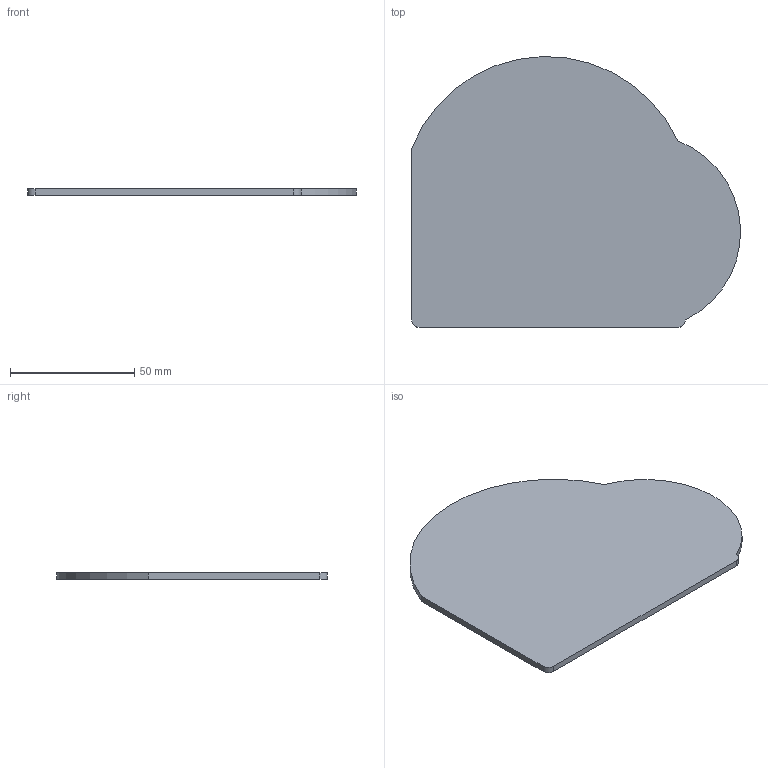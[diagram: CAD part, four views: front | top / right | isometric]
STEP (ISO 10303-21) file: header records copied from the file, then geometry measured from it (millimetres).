
FILE_DESCRIPTION(('Open CASCADE Model'),'2;1');
FILE_NAME('Open CASCADE Shape Model','2026-10-15T23:05:45',('Author'),( 'Open CASCADE'),'Open CASCADE STEP processor 7.5','Open CASCADE 7.5' ,'Unknown');
FILE_SCHEMA(('AUTOMOTIVE_DESIGN { 1 0 10303 214 1 1 1 1 }'));
Length unit declared in the file: millimetre
Products named in the file (3): PCB; Board; Open CASCADE STEP translator 7.5 1.1.1
Assembly tree (2 placements, depth 3):
  PCB
    Board
      Open CASCADE STEP translator 7.5 1.1.1
Bounding box: 132.23 x 108.92 x 2.55 mm (x, y, z)
Volume: 30415.1 mm3; surface area: 24944.1 mm2
Topology: 1 solids, 1 shells, 8 faces, 18 edges, 12 vertices
Faces by surface type: plane 4, cylinder 4
Entity records: 287 total; most frequent: DIRECTION 48, CARTESIAN_POINT 41, ORIENTED_EDGE 36, AXIS2_PLACEMENT_3D 19, EDGE_CURVE 18, VERTEX_POINT 12, LINE 10, VECTOR 10
